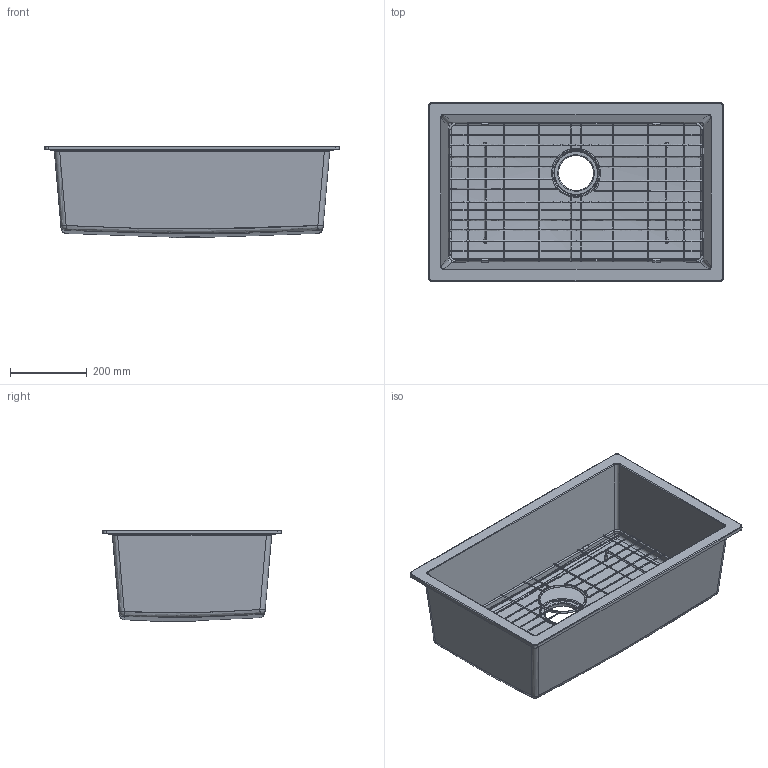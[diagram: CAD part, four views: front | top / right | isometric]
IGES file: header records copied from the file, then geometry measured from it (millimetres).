
Start section: SolidWorks IGES file using analytic representation for surfaces
Global section: file name: W:\mliu8\project\ADHOC-02291\sku_faum3018series_igs\sku_faum3018series_igs.IGS; native system: SolidWorks 2023; preprocessor: SolidWorks 2023; author: mliu8; date: 240729.144327; units: millimetre
Bounding box: 770 x 467 x 240 mm (x, y, z)
Surface area: 1708890.9 mm2 (no closed solid volume)
Topology: 0 solids, 0 shells, 487 faces, 5248 edges, 5244 vertices
Faces by surface type: bspline 405, revolution 82
